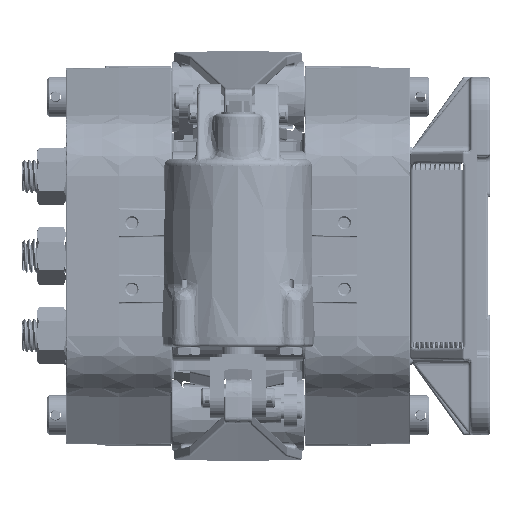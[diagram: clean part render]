
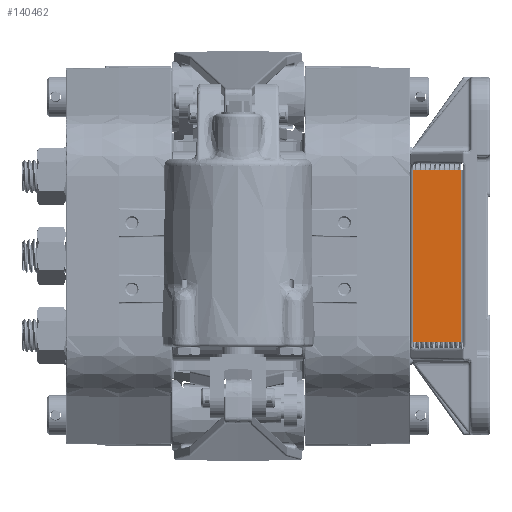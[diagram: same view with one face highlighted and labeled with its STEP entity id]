
A CAD part, left-side view. The second image highlights one B-rep face of the part: STEP entity #140462.
In plain terms, the highlighted planar face has unit normal (-1, 0.018, 0).
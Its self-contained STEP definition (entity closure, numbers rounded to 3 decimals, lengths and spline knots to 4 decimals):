
#4705 = CARTESIAN_POINT ( 'NONE',  ( -4.0029, -4.1979, 1.625 ) ) ;
#6006 = DIRECTION ( 'NONE',  ( 0., 0., 1. ) ) ;
#6365 = ORIENTED_EDGE ( 'NONE', *, *, #110819, .T. ) ;
#10701 = LINE ( 'NONE', #71704, #53628 ) ;
#13450 = LINE ( 'NONE', #110029, #22172 ) ;
#16821 = DIRECTION ( 'NONE',  ( -0.017, -1., 0. ) ) ;
#22172 = VECTOR ( 'NONE', #61032, 39.3701 ) ;
#25877 = VECTOR ( 'NONE', #6006, 39.3701 ) ;
#26214 = EDGE_CURVE ( 'NONE', #50764, #104269, #13450, .T. ) ;
#26606 = LINE ( 'NONE', #98671, #63734 ) ;
#46355 = DIRECTION ( 'NONE',  ( 0.017, 1., 0. ) ) ;
#49181 = ORIENTED_EDGE ( 'NONE', *, *, #111870, .T. ) ;
#50066 = ORIENTED_EDGE ( 'NONE', *, *, #26214, .T. ) ;
#50764 = VERTEX_POINT ( 'NONE', #111639 ) ;
#53628 = VECTOR ( 'NONE', #46355, 39.3701 ) ;
#54843 = PLANE ( 'NONE',  #143063 ) ;
#55268 = EDGE_CURVE ( 'NONE', #144439, #50764, #26606, .T. ) ;
#59395 = VERTEX_POINT ( 'NONE', #4705 ) ;
#60971 = CARTESIAN_POINT ( 'NONE',  ( -4.0029, -4.1979, -1.625 ) ) ;
#61032 = DIRECTION ( 'NONE',  ( -0.017, -1., 0. ) ) ;
#63734 = VECTOR ( 'NONE', #123230, 39.3701 ) ;
#71704 = CARTESIAN_POINT ( 'NONE',  ( -4.0082, -4.497, 1.625 ) ) ;
#74413 = ORIENTED_EDGE ( 'NONE', *, *, #55268, .T. ) ;
#91974 = FACE_OUTER_BOUND ( 'NONE', #141026, .T. ) ;
#92758 = CARTESIAN_POINT ( 'NONE',  ( -4.0082, -4.497, 0. ) ) ;
#98671 = CARTESIAN_POINT ( 'NONE',  ( -3.9872, -3.2961, -1.625 ) ) ;
#101082 = LINE ( 'NONE', #125603, #25877 ) ;
#104269 = VERTEX_POINT ( 'NONE', #60971 ) ;
#110029 = CARTESIAN_POINT ( 'NONE',  ( -4.0082, -4.497, -1.625 ) ) ;
#110819 = EDGE_CURVE ( 'NONE', #59395, #144439, #10701, .T. ) ;
#111639 = CARTESIAN_POINT ( 'NONE',  ( -3.9872, -3.2961, -1.625 ) ) ;
#111870 = EDGE_CURVE ( 'NONE', #104269, #59395, #101082, .T. ) ;
#114959 = DIRECTION ( 'NONE',  ( -1., 0.017, 0. ) ) ;
#123230 = DIRECTION ( 'NONE',  ( 0., 0., -1. ) ) ;
#125603 = CARTESIAN_POINT ( 'NONE',  ( -4.0029, -4.1979, 0. ) ) ;
#128470 = CARTESIAN_POINT ( 'NONE',  ( -3.9872, -3.2961, 1.625 ) ) ;
#140462 = ADVANCED_FACE ( 'NONE', ( #91974 ), #54843, .T. ) ;
#141026 = EDGE_LOOP ( 'NONE', ( #6365, #74413, #50066, #49181 ) ) ;
#143063 = AXIS2_PLACEMENT_3D ( 'NONE', #92758, #114959, #16821 ) ;
#144439 = VERTEX_POINT ( 'NONE', #128470 ) ;
